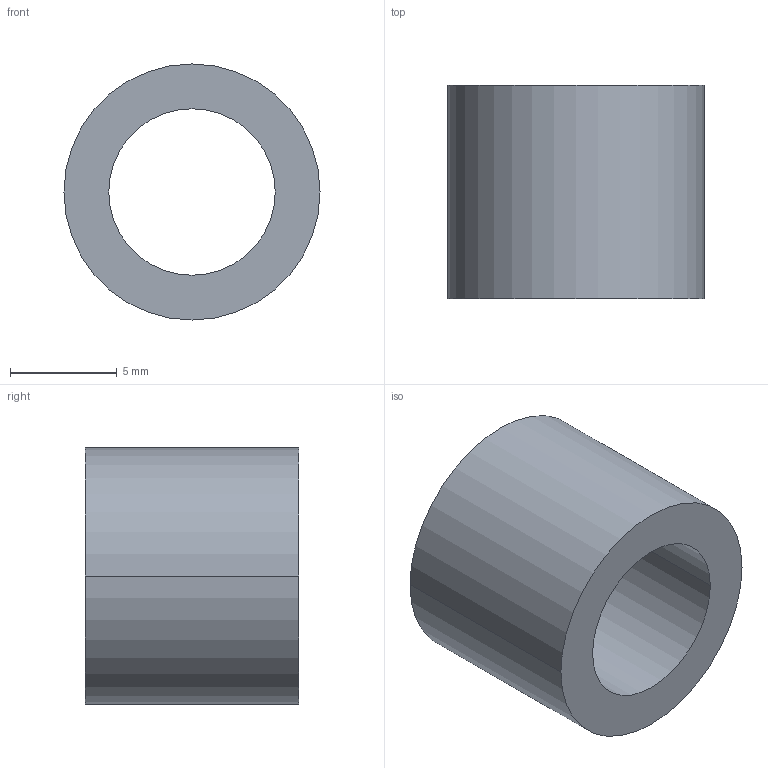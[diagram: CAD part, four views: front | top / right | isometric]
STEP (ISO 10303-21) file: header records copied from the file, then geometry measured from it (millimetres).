
FILE_DESCRIPTION (( 'STEP AP203' ), '1' );
FILE_NAME ('30800.WPP12D7.8.step', '2019-01-23T22:28:40', ( '' ), ( '' ), 'SwSTEP 2.0', 'SolidWorks 2017', '' );
FILE_SCHEMA (( 'CONFIG_CONTROL_DESIGN' ));
Length unit declared in the file: millimetre
Products named in the file (1): 30800.WPP12D7.8
Bounding box: 12 x 10 x 12 mm (x, y, z)
Volume: 640.3 mm3; surface area: 737.9 mm2
Topology: 1 solids, 1 shells, 8 faces, 16 edges, 10 vertices
Faces by surface type: cylinder 4, torus 2, plane 2
Entity records: 297 total; most frequent: DIRECTION 46, CARTESIAN_POINT 35, ORIENTED_EDGE 32, AXIS2_PLACEMENT_3D 21, EDGE_CURVE 16, CIRCLE 12, EDGE_LOOP 10, VERTEX_POINT 10
